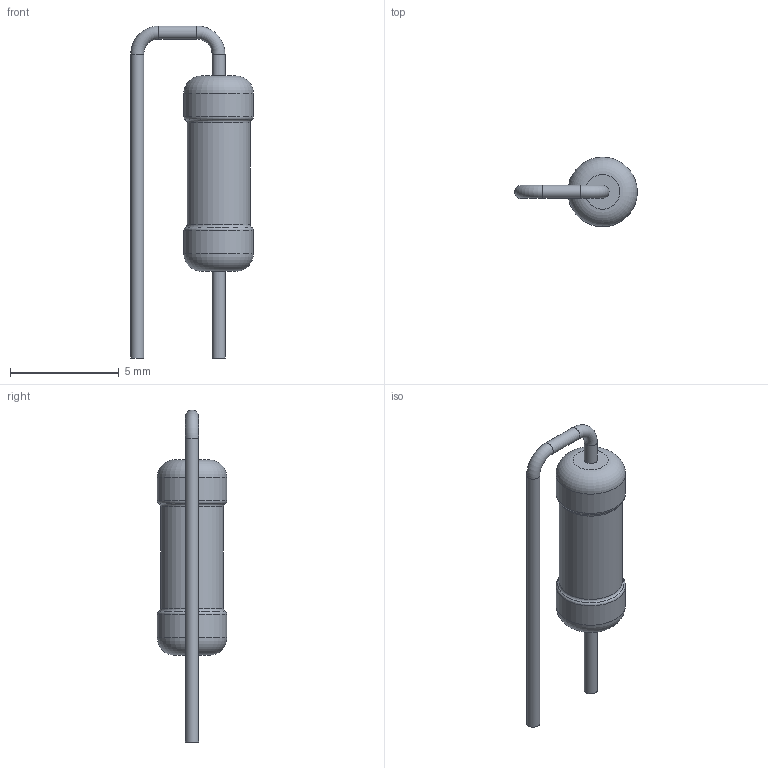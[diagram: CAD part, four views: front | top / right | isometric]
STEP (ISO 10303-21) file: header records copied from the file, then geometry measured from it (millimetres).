
FILE_DESCRIPTION(('STEP AP203'), '1');
FILE_NAME('栖闉罻', '', ('UNSPECIFIED'), ('UNSPECIFIED'), 'ASCON STEP Converter 1.6', 'ASCON Math Kernel', '');
FILE_SCHEMA(('CONFIG_CONTROL_DESIGN'));
Length unit declared in the file: millimetre
Assembly tree (1 placements, depth 2):
  (unnamed)
    (unnamed)
Bounding box: 5.65 x 3.2 x 15.3 mm (x, y, z)
Volume: 69.6 mm3; surface area: 140.5 mm2
Topology: 1 solids, 1 shells, 19 faces, 33 edges, 18 vertices
Faces by surface type: torus 8, cylinder 7, plane 4
Full cylindrical faces by diameter (mm): 0.6 x4, 2.9 x1, 3.2 x2
Entity records: 620 total; most frequent: DIRECTION 78, CARTESIAN_POINT 57, AXIS2_PLACEMENT_3D 39, EDGE_LOOP 36, ORIENTED_EDGE 36, FACE_OUTER_BOUND 30, COLOUR_RGB 20, FILL_AREA_STYLE_COLOUR 20
